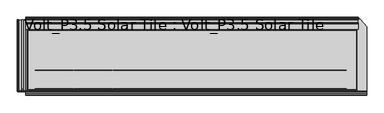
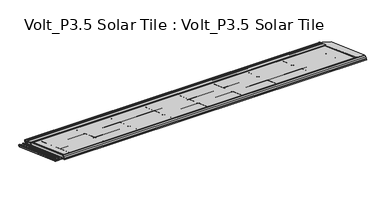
"""IFC4 building model written with IfcOpenShell, lengths in millimetres: proxy geometry, Volt_P3.5 Solar Tile : Volt_P3.5 Solar Tile."""

from ifc_helpers import new_model, si_unit, point, frame, frame_2d, origin, place, context, project, spatial, polyline, circle_curve, ellipse_curve, trimmed, segment, composite_curve, outline, extrude, source, transform, mapped, element, save
from ifc_brep_helpers import plane_surface, cylinder_surface, revolved_surface, advanced_brep


def volt_p3_5_solar_tile_volt_p3_5_solar_tile_fd20a2fa(model_context):
    return source(origin(), model_context, "Body", "SolidModel", [
        extrude(outline(composite_curve([segment(polyline([(515.4287525, -106.4005663), (519.4712942, -106.3723435), (556.2132766, -119.7453315), (553.7849336, -126.4171491), (572.3908466, -133.1891476), (574.4771691, -127.4570235)]), True, "CONTINUOUS"), segment(trimmed(circle_curve(frame_2d((576.2625851, -128.1068618)), 1.9), [point((574.4771691, -127.4570235))], [point((576.9124234, -126.3214458))], False, "CARTESIAN"), True, "CONTINUOUS"), segment(polyline([(576.9124234, -126.3214458), (583.8191641, -128.8352939)]), True, "CONTINUOUS"), segment(trimmed(circle_curve(frame_2d((583.562649, -129.5400634)), 0.75), [point((583.8191641, -128.8352939))], [point((584.2674185, -129.7965785))], False, "CARTESIAN"), True, "CONTINUOUS"), segment(polyline([(584.2674185, -129.7965785), (576.9994907, -149.765046)]), True, "CONTINUOUS"), segment(trimmed(circle_curve(frame_2d((575.2140747, -149.1152078)), 1.9), [point((576.9994907, -149.765046))], [point((574.5642364, -150.9006237))], False, "CARTESIAN"), True, "CONTINUOUS"), segment(polyline([(574.5642364, -150.9006237), (504.7450747, -125.4885271), (505.6001252, -123.1392953), (507.0096641, -123.6523255)]), True, "CONTINUOUS"), segment(trimmed(circle_curve(frame_2d((507.8647144, -121.3030939)), 2.5), [point((507.0096641, -123.6523255))], [point((510.213946, -122.1581443))], True, "CARTESIAN"), True, "CONTINUOUS"), segment(polyline([(510.213946, -122.1581443), (512.1945329, -116.7165265)]), True, "CONTINUOUS"), segment(trimmed(circle_curve(frame_2d((514.3558259, -117.5031729)), 2.3), [point((512.1945329, -116.7165265))], [point((515.1424722, -115.3418799))], False, "CARTESIAN"), True, "CONTINUOUS"), segment(polyline([(515.1424722, -115.3418799), (516.7399497, -115.9233141), (520.0474682, -117.2596383)]), True, "CONTINUOUS"), segment(trimmed(circle_curve(frame_2d((520.4220748, -116.3324544)), 1.0), [point((520.0474682, -117.2596383))], [point((521.3617674, -116.6744746))], True, "CARTESIAN"), True, "CONTINUOUS"), segment(polyline([(521.3617674, -116.6744746), (523.969707, -109.5092195), (515.4287525, -106.4005663)]), True, "CONTINUOUS")], self_intersect=False), holes=[composite_curve([segment(polyline([(525.3481738, -110.1076194), (521.8922522, -119.6026861), (520.4918217, -119.0646306), (517.0982319, -128.388442), (567.4657564, -146.7207216), (570.9938636, -137.0273269)]), True, "CONTINUOUS"), segment(trimmed(circle_curve(frame_2d((570.6179905, -136.8905202)), 0.3999957), [point((570.9938636, -137.0273269))], [point((570.3415961, -136.6013789))], True, "CARTESIAN"), True, "CONTINUOUS"), segment(trimmed(circle_curve(frame_2d((568.6141123, -134.7942265)), 2.5), [point((570.3415961, -136.6013789))], [point((567.1296696, -136.8058005))], False, "CARTESIAN"), True, "CONTINUOUS"), segment(polyline([(567.1296696, -136.8058005), (567.7896609, -135.8632353)]), True, "CONTINUOUS"), segment(trimmed(circle_curve(frame_2d((568.6141123, -134.7942265)), 1.35), [point((567.7896609, -135.8632353))], [point((567.2652569, -134.7386473))], True, "CARTESIAN"), True, "CONTINUOUS"), segment(polyline([(567.2652569, -134.7386473), (566.1189759, -134.6383607)]), True, "CONTINUOUS"), segment(trimmed(circle_curve(frame_2d((568.6141123, -134.7942265)), 2.5), [point((566.1189759, -134.6383607))], [point((567.0521042, -132.8422709))], False, "CARTESIAN"), True, "CONTINUOUS"), segment(polyline([(567.0521042, -132.8422709), (553.6477805, -127.9634961)]), True, "CONTINUOUS"), segment(trimmed(circle_curve(frame_2d((554.2976187, -126.1780801)), 1.9), [point((553.6477805, -127.9634961))], [point((552.4109903, -125.9530624))], False, "CARTESIAN"), True, "CONTINUOUS"), segment(polyline([(552.4109903, -125.9530624), (552.7605903, -124.8458027)]), True, "CONTINUOUS"), segment(trimmed(circle_curve(frame_2d((552.3847133, -124.7089946)), 0.4), [point((552.7605903, -124.8458027))], [point((552.2586755, -124.3293705))], True, "CARTESIAN"), True, "CONTINUOUS"), segment(trimmed(circle_curve(frame_2d((551.4709394, -121.9567197)), 2.5), [point((552.2586755, -124.3293705))], [point((549.9864969, -123.9682938))], False, "CARTESIAN"), True, "CONTINUOUS"), segment(polyline([(549.9864969, -123.9682938), (550.6464882, -123.0257286)]), True, "CONTINUOUS"), segment(trimmed(circle_curve(frame_2d((551.4709394, -121.9567197)), 1.35), [point((550.6464882, -123.0257286))], [point((550.122084, -121.9011402))], True, "CARTESIAN"), True, "CONTINUOUS"), segment(polyline([(550.122084, -121.9011402), (548.975803, -121.8008536)]), True, "CONTINUOUS"), segment(trimmed(circle_curve(frame_2d((551.4709394, -121.9567197)), 2.5), [point((548.975803, -121.8008536))], [point((550.1597304, -119.8281683))], False, "CARTESIAN"), True, "CONTINUOUS"), segment(trimmed(circle_curve(frame_2d((549.949937, -119.4876001)), 0.4), [point((550.1597304, -119.8281683))], [point((550.086745, -119.111723))], True, "CARTESIAN"), True, "CONTINUOUS"), segment(polyline([(550.086745, -119.111723), (525.3481738, -110.1076194)]), True, "CONTINUOUS")], self_intersect=False), polyline([(519.1088944, -118.4784855), (513.8466158, -116.5631727), (510.4264143, -125.9600989), (515.688693, -127.8754117), (519.1088944, -118.4784855)]), composite_curve([segment(polyline([(574.118916, -132.8270225), (568.8752953, -147.2337519), (575.4531437, -149.6278929), (582.6013644, -129.9883177), (578.7679823, -128.5930807)]), True, "CONTINUOUS"), segment(trimmed(circle_curve(frame_2d((578.6311743, -128.9689578)), 0.4), [point((578.7679823, -128.5930807))], [point((578.382121, -129.2819633))], True, "CARTESIAN"), True, "CONTINUOUS"), segment(trimmed(circle_curve(frame_2d((576.8255379, -131.2382488)), 2.5000007), [point((578.382121, -129.2819633))], [point((579.2696972, -131.7636906))], False, "CARTESIAN"), True, "CONTINUOUS"), segment(polyline([(579.2696972, -131.7636906), (578.146914, -131.5147755)]), True, "CONTINUOUS"), segment(trimmed(circle_curve(frame_2d((576.8255379, -131.2382488)), 1.3500007), [point((578.146914, -131.5147755))], [point((577.2161781, -132.5304957))], True, "CARTESIAN"), True, "CONTINUOUS"), segment(polyline([(577.2161781, -132.5304957), (577.5620029, -133.6273119)]), True, "CONTINUOUS"), segment(trimmed(circle_curve(frame_2d((576.8255379, -131.2382488)), 2.5000007), [point((577.5620029, -133.6273119))], [point((574.816275, -132.7258194))], False, "CARTESIAN"), True, "CONTINUOUS"), segment(trimmed(circle_curve(frame_2d((574.494793, -132.9638306)), 0.4), [point((574.816275, -132.7258194))], [point((574.118916, -132.8270225))], True, "CARTESIAN"), True, "CONTINUOUS")], self_intersect=False)]), frame((-910.1, 0.0, 0.0), z_axis=(1.0, 0.0, 0.0), x_axis=(0.0, 1.0, 0.0)), (0.0, 0.0, 1.0), 1818.7),
        advanced_brep(
        [(952.9001354, 180.0543196, 17.1653322), (952.9001354, 177.9674488, 16.336152), (952.9001354, 169.9682153, 11.9021044), (952.9001354, 162.920374, 5.9252649), (952.9001354, 162.0108089, 5.6120765), (952.9001354, 159.9681802, 3e-07), (952.9001354, 173.5973952, -4.9606283), (952.9001354, 181.4638585, 16.652302), (952.9001354, 173.0381205, 12.1208089), (952.9001354, 179.4112645, 15.3985528), (952.9001354, 172.7008865, -3.0380591), (952.9001354, 162.1366046, 0.807025), (952.9001354, 163.3805058, 4.2246153), (952.9001354, 167.949555, 8.521188), (-910.1, 159.9681802, 3e-07), (-910.1, 162.0108089, 5.6120765), (-910.1, 162.920374, 5.9252649), (-910.1, 169.9682153, 11.9021044), (-910.1, 177.9674488, 16.336152), (-910.1, 180.0543196, 17.1653322), (-910.1, 524.4516651, -108.1850503), (-910.1, 519.355565, -122.1864704), (-910.1, 186.8702679, -1.1717189), (-910.1, 185.54344, -2.2850597), (-910.1, 174.4451893, 1.7543732), (-910.1, 179.4112645, 15.3985528), (-910.1, 173.0381205, 12.1208089), (-910.1, 167.949555, 8.521188), (-910.1, 163.3805058, 4.2246153), (-910.1, 162.1366046, 0.807025), (-910.1, 172.7008865, -3.0380591), (-910.1, 181.0322252, -6.0704184), (-910.1, 179.7053973, -7.1837592), (907.0918853, 178.9401658, 5.3328067), (907.0918853, 175.5199644, -4.0641195), (-900.0, 175.5199644, -4.0641195), (-900.0, 178.9401658, 5.3328067), (-901.5, 175.5199644, -4.0641195), (-907.1, 175.5199644, -4.0641195), (-907.1, 178.9401658, 5.3328067), (-901.5, 178.9401658, 5.3328067), (-907.1, 519.1088945, -118.4784852), (-901.5, 513.8466159, -116.5631724), (901.4918853, 184.2024445, 3.4174939), (-900.0, 184.2024445, 3.4174939), (901.4918853, 180.7822431, -5.9794324), (-900.0, 180.7822431, -5.9794324), (-901.5, 510.4264144, -125.9600986), (-907.1, 515.6886931, -127.8754114), (899.9918853, 181.6787518, -7.9020015), (-900.0, 181.6787518, -7.9020015), (-900.0, 186.1560857, 4.3993723), (899.9918853, 186.1560857, 4.3993723), (-900.0, 512.9811792, -114.5552335), (-904.0, 516.7399497, -115.9233141), (-904.0, 178.0747292, 7.3407456), (-900.0, 178.0747292, 7.3407456), (-900.0, 182.3973152, 5.7674529), (903.9918853, 182.3973152, 5.7674529), (908.5918853, 178.0197886, 7.1897975), (-900.0, 178.0197886, 7.1897975), (-908.6, 180.9819004, 15.3281328), (908.5918853, 180.9819004, 15.3281328), (908.5918853, 181.4638585, 16.652302), (908.5918853, 173.5973952, -4.9606283), (-908.6, 178.0197886, 7.1897975), (-899.5109061, 189.5228549, 12.2194796), (899.5027913, 189.5228549, 12.2194796), (-908.6, 523.969707, -109.5092195), (-899.5109061, 515.4287525, -106.4005663), (-903.3, 186.4442294, 14.8395953), (903.2918853, 186.4442294, 14.8395953), (-903.3, 519.4712942, -106.3723435), (-908.6, 524.4516651, -108.1850503), (-952.6, 179.7053973, -7.1837592), (-952.6, 566.9527263, -148.1302603), (-910.1, 566.9527263, -148.1302603), (-910.1, 516.5852018, -129.7979806), (-908.6, 516.5852018, -129.7979806), (-900.0, 508.5038453, -126.8566073), (-908.6, 179.4112645, 15.3985528), (-908.6, 172.7008865, -3.0380591), (-907.1, 172.7008865, -3.0380591), (-901.5, 172.7008865, -3.0380591), (-900.0, 172.7008865, -3.0380591), (-908.6, 175.8547282, 1.241343), (-908.6, 174.1104255, -3.5510893), (-952.6, 571.1937761, -136.4780718), (-946.7, 571.1937761, -136.4780718), (-946.7, 570.4071297, -138.6393648), (-944.7, 569.7230895, -140.51875), (-930.7, 569.7230895, -140.51875), (-930.7, 571.1937761, -136.4780718), (-923.7, 571.1937761, -136.4780718), (-923.7, 569.7230895, -140.51875), (-910.1, 569.7230895, -140.51875), (-910.1, 569.2100592, -141.928289), (-925.2, 569.2100592, -141.928289), (-925.2, 570.6807459, -137.8876107), (-929.2, 570.6807459, -137.8876107), (-929.2, 569.2100592, -141.928289), (-948.2, 569.2100592, -141.928289), (-948.2, 570.6807459, -137.8876107), (-953.1, 570.6807459, -137.8876107), (-953.1, 567.4657565, -146.7207213), (-910.1, 567.4657565, -146.7207213), (-954.6, 567.6367666, -146.250875), (-954.6, 570.5097358, -138.357457), (-954.6, 188.9047374, 0.5354037), (-952.6, 190.6738412, 2.0198581), (-954.6, 181.4745011, -5.6993048), (-908.6, 521.0075952, -117.6475548), (-923.7, 186.8702679, -1.1717189), (-923.7, 190.6738412, 2.0198581), (-930.7, 190.6738412, 2.0198581), (-930.7, 186.8702679, -1.1717189), (-944.7, 186.8702679, -1.1717189), (-946.7, 188.6393718, 0.3127355), (-946.7, 190.6738412, 2.0198581), (-948.2, 185.54344, -2.2850597), (-948.2, 189.3470133, 0.9065173), (-929.2, 185.54344, -2.2850597), (-929.2, 189.3470133, 0.9065173), (-925.2, 189.3470133, 0.9065173), (-925.2, 185.54344, -2.2850597), (-910.1, 518.8425348, -123.5960093), (-908.6, 518.8425348, -123.5960093), (-908.6, 517.098232, -128.3884416), (-953.1, 181.0322252, -6.0704184), (-910.1, 517.098232, -128.3884416), (-953.1, 189.3470133, 0.9065173)],
        [
            (0, 1),
            (1, 2),
            (2, 3),
            (3, 4),
            (4, 5),
            (5, 6),
            (6, 7),
            (7, 0),
            (8, 9),
            (9, 10),
            (10, 11),
            (11, 12),
            (12, 13),
            (13, 8),
            (14, 15),
            (15, 16),
            (16, 17),
            (17, 18),
            (18, 19),
            (19, 20),
            (20, 21),
            (21, 22),
            (22, 23),
            (23, 24),
            (24, 25),
            (25, 26),
            (26, 27),
            (27, 28),
            (28, 29),
            (29, 30),
            (30, 31),
            (31, 32),
            (32, 14),
            (33, 34),
            (34, 35),
            (35, 36),
            (36, 33),
            (37, 38),
            (38, 39),
            (39, 40),
            (40, 37),
            (39, 41),
            (41, 42),
            (42, 40),
            (43, 33),
            (36, 44),
            (44, 43),
            (45, 43),
            (44, 46),
            (46, 45),
            (37, 47),
            (47, 48),
            (48, 38),
            (34, 45),
            (46, 35),
            (49, 50),
            (50, 51),
            (51, 52),
            (52, 49),
            (51, 53),
            (53, 54),
            (54, 55),
            (55, 56),
            (56, 57),
            (57, 58),
            (58, 52),
            (59, 58),
            (57, 60),
            (60, 59),
            (61, 62),
            (62, 63),
            (63, 7),
            (6, 64),
            (64, 59),
            (60, 56),
            (55, 65),
            (65, 61),
            (66, 67),
            (67, 62),
            (61, 68),
            (68, 69),
            (69, 66),
            (66, 70),
            (70, 71),
            (71, 67),
            (63, 71),
            (70, 72),
            (72, 73),
            (73, 20),
            (19, 0),
            (18, 1),
            (17, 2),
            (16, 3),
            (15, 4),
            (14, 5),
            (32, 74),
            (74, 75),
            (75, 76),
            (76, 77),
            (77, 78),
            (78, 79),
            (79, 50),
            (49, 64),
            (8, 26),
            (25, 80),
            (80, 9),
            (24, 30),
            (30, 81),
            (81, 82),
            (82, 83),
            (83, 84),
            (84, 10),
            (29, 11),
            (28, 12),
            (27, 13),
            (24, 85),
            (85, 86),
            (86, 30),
            (87, 88),
            (88, 89),
            (89, 90, circle_curve(frame((-944.7, 570.4071297, -138.6393648), z_axis=(0.0, -0.9396926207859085, 0.34202014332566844), x_axis=(-1.0, 0.0, 0.0)), 2.0)),
            (90, 91),
            (91, 92),
            (92, 93),
            (93, 94),
            (94, 95),
            (95, 96),
            (96, 97),
            (97, 98),
            (98, 99),
            (99, 100),
            (100, 101),
            (101, 102),
            (102, 103),
            (103, 104),
            (104, 105),
            (105, 76),
            (75, 106, circle_curve(frame((-952.6, 567.6367666, -146.250875), z_axis=(0.0, 0.9396926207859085, -0.34202014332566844), x_axis=(-1.0, 0.0, 0.0)), 2.0)),
            (106, 107),
            (107, 87, circle_curve(frame((-952.6, 570.5097358, -138.357457), z_axis=(0.0, 0.9396926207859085, -0.34202014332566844), x_axis=(0.0, 0.34202014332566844, 0.9396926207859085)), 2.0)),
            (107, 108),
            (108, 109, ellipse_curve(frame((-952.6, 188.9047374, 0.5354037), z_axis=(0.0, 0.6427876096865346, -0.7660444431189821), x_axis=(0.0, -0.7660444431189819, -0.6427876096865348)), 2.3094011, 2.0)),
            (109, 87),
            (106, 110),
            (110, 108),
            (74, 110, ellipse_curve(frame((-952.6, 181.4745011, -5.6993048), z_axis=(0.0, 0.6427876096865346, -0.7660444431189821), x_axis=(0.0, -0.7660444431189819, -0.6427876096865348)), 2.3094011, 2.0)),
            (79, 53),
            (54, 111),
            (111, 65),
            (111, 68),
            (69, 72),
            (94, 112),
            (112, 22),
            (21, 95),
            (93, 113),
            (113, 112),
            (92, 114),
            (114, 113),
            (91, 115),
            (115, 114),
            (90, 116),
            (116, 115),
            (89, 117),
            (117, 116, ellipse_curve(frame((-944.7, 188.6393718, 0.3127355), z_axis=(0.0, -0.6427876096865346, 0.7660444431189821), x_axis=(0.0, 0.7660444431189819, 0.6427876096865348)), 2.3094011, 2.0)),
            (88, 118),
            (118, 117),
            (109, 118),
            (101, 119),
            (119, 120),
            (120, 102),
            (100, 121),
            (121, 119),
            (99, 122),
            (122, 121),
            (98, 123),
            (123, 122),
            (97, 124),
            (124, 123),
            (96, 125),
            (125, 126),
            (126, 85),
            (23, 124),
            (126, 127),
            (127, 86),
            (104, 128),
            (128, 31),
            (127, 129),
            (129, 105),
            (103, 130),
            (130, 128),
            (120, 130),
            (42, 47),
            (48, 41),
            (77, 129),
            (127, 78),
            (111, 126),
            (125, 21),
            (73, 68),
        ],
        [
            plane_surface(frame((952.9001354, 175.5199644, -4.0641195), z_axis=(1.0, 0.0, 0.0), x_axis=(0.0, 0.34202014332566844, 0.9396926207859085))),
            plane_surface(frame((-910.1, 175.5199644, -4.0641195), z_axis=(-1.0, 0.0, 0.0), x_axis=(0.0, -0.34202014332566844, -0.9396926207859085))),
            plane_surface(frame((952.9001354, 175.5199644, -4.0641195), z_axis=(0.0, 0.9396926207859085, -0.34202014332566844), x_axis=(-1.0, 0.0, 0.0))),
            plane_surface(frame((952.9001354, 178.9401658, 5.3328067), z_axis=(0.0, -0.34202014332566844, -0.9396926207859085), x_axis=(-1.0, 0.0, 0.0))),
            plane_surface(frame((952.9001354, 184.2024445, 3.4174939), z_axis=(0.0, -0.9396926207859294, 0.3420201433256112), x_axis=(-1.0, 0.0, 0.0))),
            plane_surface(frame((952.9001354, 180.7822431, -5.9794324), z_axis=(0.0, 0.34202014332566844, 0.9396926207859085), x_axis=(-1.0, 0.0, 0.0))),
            plane_surface(frame((952.9001354, 181.6787518, -7.9020015), z_axis=(0.0, 0.9396926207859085, -0.34202014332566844), x_axis=(-1.0, 0.0, 0.0))),
            plane_surface(frame((952.9001354, 186.1560857, 4.3993723), z_axis=(0.0, 0.34202014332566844, 0.9396926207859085), x_axis=(-1.0, 0.0, 0.0))),
            plane_surface(frame((952.9001354, 182.3973152, 5.7674529), z_axis=(0.0, 0.3090169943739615, 0.9510565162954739), x_axis=(-1.0, 0.0, 0.0))),
            plane_surface(frame((952.9001354, 178.0197886, 7.1897975), z_axis=(0.0, 0.9396926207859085, -0.34202014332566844), x_axis=(-1.0, 0.0, 0.0))),
            plane_surface(frame((952.9001354, 180.9819004, 15.3281328), z_axis=(0.0, -0.34202014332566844, -0.9396926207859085), x_axis=(-1.0, 0.0, 0.0))),
            plane_surface(frame((952.9001354, 189.5228549, 12.2194796), z_axis=(0.0, 0.6481199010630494, 0.7615383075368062), x_axis=(-1.0, 0.0, 0.0))),
            plane_surface(frame((952.9001354, 186.4442294, 14.8395953), z_axis=(0.0, 0.3420201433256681, 0.9396926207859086), x_axis=(-1.0, 0.0, 0.0))),
            plane_surface(frame((952.9001354, 180.0543196, 17.1653322), z_axis=(0.0, -0.3692521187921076, 0.9293292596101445), x_axis=(-1.0, 0.0, 0.0))),
            plane_surface(frame((952.9001354, 177.9674488, 16.336152), z_axis=(0.0, -0.4848096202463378, 0.8746197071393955), x_axis=(-1.0, 0.0, 0.0))),
            plane_surface(frame((952.9001354, 169.9682153, 11.9021044), z_axis=(0.0, -0.6467794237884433, 0.762677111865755), x_axis=(-1.0, 0.0, 0.0))),
            plane_surface(frame((952.9001354, 162.920374, 5.9252649), z_axis=(0.0, -0.3255681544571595, 0.9455185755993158), x_axis=(-1.0, 0.0, 0.0))),
            plane_surface(frame((952.9001354, 162.0108089, 5.6120765), z_axis=(0.0, -0.9396926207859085, 0.34202014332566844), x_axis=(-1.0, 0.0, 0.0))),
            plane_surface(frame((952.9001354, 159.9681802, 3e-07), z_axis=(0.0, -0.34202014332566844, -0.9396926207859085), x_axis=(-1.0, 0.0, 0.0))),
            plane_surface(frame((952.9001354, 173.0381205, 12.1208089), z_axis=(0.0, 0.4573620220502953, -0.8892805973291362), x_axis=(-1.0, 0.0, 0.0))),
            plane_surface(frame((952.9001354, 179.4112645, 15.3985528), z_axis=(0.0, -0.9396926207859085, 0.34202014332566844), x_axis=(-1.0, 0.0, 0.0))),
            plane_surface(frame((952.9001354, 172.7008865, -3.0380591), z_axis=(0.0, 0.34202014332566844, 0.9396926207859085), x_axis=(-1.0, 0.0, 0.0))),
            plane_surface(frame((952.9001354, 162.1366046, 0.807025), z_axis=(0.0, 0.9396926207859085, -0.34202014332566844), x_axis=(-1.0, 0.0, 0.0))),
            plane_surface(frame((952.9001354, 163.3805058, 4.2246153), z_axis=(0.0, 0.6850510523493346, -0.7284950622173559), x_axis=(-1.0, 0.0, 0.0))),
            plane_surface(frame((952.9001354, 167.949555, 8.521188), z_axis=(0.0, 0.5775066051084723, -0.8163860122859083), x_axis=(-1.0, 0.0, 0.0))),
            plane_surface(frame((899.5027913, 193.916151, 24.2899616), z_axis=(0.7071067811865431, 0.6644630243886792, -0.24184476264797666), x_axis=(0.0, -0.34202014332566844, -0.9396926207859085))),
            plane_surface(frame((-911.910762, 182.2640979, 28.5309621), z_axis=(-0.7071067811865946, 0.6644630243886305, -0.24184476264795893), x_axis=(0.0, -0.34202014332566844, -0.9396926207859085))),
            plane_surface(frame((-952.6, 571.1937761, -136.4780718), z_axis=(0.0, 0.9396926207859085, -0.34202014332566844), x_axis=(1.0, 0.0, 0.0))),
            cylinder_surface(frame((-952.6, 570.5097358, -138.357457), z_axis=(0.0, -0.9396926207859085, 0.34202014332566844), x_axis=(0.0, 0.34202014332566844, 0.9396926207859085)), 2.0),
            plane_surface(frame((-954.6, 175.7448658, 5.3252052), z_axis=(-1.0, 0.0, 0.0), x_axis=(0.0, 0.9396926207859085, -0.34202014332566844))),
            cylinder_surface(frame((-952.6, 567.6367666, -146.250875), z_axis=(0.0, -0.9396926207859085, 0.34202014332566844), x_axis=(-1.0, 0.0, 0.0)), 2.0),
            plane_surface(frame((-900.0, 172.1878563, -4.4475981), z_axis=(1.0, 0.0, 0.0), x_axis=(0.0, 0.9396926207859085, -0.34202014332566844))),
            plane_surface(frame((-904.0, 176.6651902, 7.8537758), z_axis=(-0.034899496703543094, 0.34181179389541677, 0.9391201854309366), x_axis=(0.0, 0.9396926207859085, -0.34202014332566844))),
            plane_surface(frame((-908.6, 176.6102496, 7.7028277), z_axis=(1.0, 0.0, 0.0), x_axis=(0.0, 0.9396926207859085, -0.34202014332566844))),
            plane_surface(frame((-899.5109061, 179.5723614, 15.8411631), z_axis=(0.34857204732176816, 0.32056932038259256, 0.8807569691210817), x_axis=(0.0, 0.9396926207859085, -0.34202014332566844))),
            plane_surface(frame((-910.1, 174.9582195, 3.1639122), z_axis=(0.0, 0.34202014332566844, 0.9396926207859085), x_axis=(0.0, 0.9396926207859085, -0.34202014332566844))),
            plane_surface(frame((-923.7, 174.9582195, 3.1639122), z_axis=(1.0, 0.0, 0.0), x_axis=(0.0, 0.9396926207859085, -0.34202014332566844))),
            plane_surface(frame((-923.7, 176.4289061, 7.2045904), z_axis=(0.0, 0.34202014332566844, 0.9396926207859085), x_axis=(0.0, 0.9396926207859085, -0.34202014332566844))),
            plane_surface(frame((-930.7, 176.4289061, 7.2045904), z_axis=(-1.0, 0.0, 0.0), x_axis=(0.0, 0.9396926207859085, -0.34202014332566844))),
            plane_surface(frame((-930.7, 174.9582195, 3.1639122), z_axis=(0.0, 0.34202014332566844, 0.9396926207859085), x_axis=(0.0, 0.9396926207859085, -0.34202014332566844))),
            revolved_surface(polyline([(-946.7, 570.4071297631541, -138.63936482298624), (-946.7, 187.55430818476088, 0.7076663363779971)]), (-944.7, 570.4071297, -138.6393648), (0.0, 0.9396926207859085, -0.34202014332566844)),
            plane_surface(frame((-946.7, 175.6422598, 5.0432974), z_axis=(1.0, 0.0, 0.0), x_axis=(0.0, 0.9396926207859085, -0.34202014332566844))),
            plane_surface(frame((-946.7, 176.4289061, 7.2045904), z_axis=(0.0, 0.34202014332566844, 0.9396926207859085), x_axis=(0.0, 0.9396926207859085, -0.34202014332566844))),
            plane_surface(frame((-948.2, 175.9158759, 5.7950515), z_axis=(-1.0, 0.0, 0.0), x_axis=(0.0, 0.9396926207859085, -0.34202014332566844))),
            plane_surface(frame((-948.2, 174.4451893, 1.7543732), z_axis=(0.0, -0.34202014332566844, -0.9396926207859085), x_axis=(0.0, 0.9396926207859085, -0.34202014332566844))),
            plane_surface(frame((-929.2, 174.4451893, 1.7543732), z_axis=(1.0, 0.0, 0.0), x_axis=(0.0, 0.9396926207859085, -0.34202014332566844))),
            plane_surface(frame((-929.2, 175.9158759, 5.7950515), z_axis=(0.0, -0.34202014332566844, -0.9396926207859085), x_axis=(0.0, 0.9396926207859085, -0.34202014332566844))),
            plane_surface(frame((-925.2, 175.9158759, 5.7950515), z_axis=(-1.0, 0.0, 0.0), x_axis=(0.0, 0.9396926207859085, -0.34202014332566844))),
            plane_surface(frame((-925.2, 174.4451893, 1.7543732), z_axis=(0.0, -0.34202014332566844, -0.9396926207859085), x_axis=(0.0, 0.9396926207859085, -0.34202014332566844))),
            plane_surface(frame((-908.6, 174.4451893, 1.7543732), z_axis=(-1.0, 0.0, 0.0), x_axis=(0.0, 0.9396926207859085, -0.34202014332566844))),
            plane_surface(frame((-908.6, 172.7008865, -3.0380591), z_axis=(0.0, 0.34202014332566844, 0.9396926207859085), x_axis=(0.0, 0.9396926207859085, -0.34202014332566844))),
            plane_surface(frame((-953.1, 172.7008865, -3.0380591), z_axis=(1.0, 0.0, 0.0), x_axis=(0.0, 0.9396926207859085, -0.34202014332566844))),
            plane_surface(frame((-953.1, 175.9158759, 5.7950515), z_axis=(0.0, -0.34202014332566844, -0.9396926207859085), x_axis=(0.0, 0.9396926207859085, -0.34202014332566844))),
            plane_surface(frame((-901.5, 176.121088, 6.3588671), z_axis=(-1.0, 0.0, 0.0), x_axis=(0.0, 0.9396926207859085, -0.34202014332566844))),
            plane_surface(frame((-907.1, 172.7008865, -3.0380591), z_axis=(1.0, 0.0, 0.0), x_axis=(0.0, 0.9396926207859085, -0.34202014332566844))),
            plane_surface(frame((-910.1, 526.9654696, -101.2784294), z_axis=(0.0, 0.9396926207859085, -0.34202014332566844), x_axis=(0.0, -0.34202014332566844, -0.9396926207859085))),
            plane_surface(frame((-908.6, 526.9654696, -101.2784294), z_axis=(0.7071067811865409, 0.6644630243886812, -0.24184476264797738), x_axis=(0.0, -0.34202014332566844, -0.9396926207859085))),
            plane_surface(frame((-910.1, 577.332994, -119.610709), z_axis=(1.0, 0.0, 0.0), x_axis=(0.0, -0.34202014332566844, -0.9396926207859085))),
            plane_surface(frame((-910.0999984, 164.8787285, -19.6248115), z_axis=(0.0, -0.6427876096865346, 0.7660444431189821), x_axis=(-1.0, 0.0, 0.0))),
        ],
        [
            (0, [[1, 2, 3, 4, 5, 6, 7, 8], [9, 10, 11, 12, 13, 14]]),
            (1, [[15, 16, 17, 18, 19, 20, 21, 22, 23, 24, 25, 26, 27, 28, 29, 30, 31, 32, 33]]),
            (2, [[34, 35, 36, 37]]),
            (2, [[38, 39, 40, 41]]),
            (3, [[-40, 42, 43, 44]]),
            (3, [[45, -37, 46, 47]]),
            (4, [[48, -47, 49, 50]]),
            (5, [[-38, 51, 52, 53]]),
            (5, [[54, -50, 55, -35]]),
            (6, [[56, 57, 58, 59]]),
            (7, [[-58, 60, 61, 62, 63, 64, 65, 66]]),
            (8, [[67, -65, 68, 69]]),
            (9, [[70, 71, 72, -7, 73, 74, -69, 75, -63, 76, 77]]),
            (10, [[78, 79, -70, 80, 81, 82]]),
            (11, [[-78, 83, 84, 85]]),
            (12, [[-8, -72, 86, -84, 87, 88, 89, -20, 90]]),
            (13, [[-1, -90, -19, 91]]),
            (14, [[-2, -91, -18, 92]]),
            (15, [[-3, -92, -17, 93]]),
            (16, [[-4, -93, -16, 94]]),
            (17, [[-5, -94, -15, 95]]),
            (18, [[-95, -33, 96, 97, 98, 99, 100, 101, 102, -56, 103, -73, -6]]),
            (19, [[-9, 104, -26, 105, 106]]),
            (20, [[-10, -106, -105, -25, 107, 108, 109, 110, 111, 112]]),
            (21, [[-11, -112, -111, -110, -109, -108, -30, 113]]),
            (22, [[-12, -113, -29, 114]]),
            (23, [[-13, -114, -28, 115]]),
            (24, [[-14, -115, -27, -104]]),
            (25, [[-71, -79, -85, -86]]),
            (25, [[-74, -103, -59, -66, -67], [-34, -45, -48, -54]]),
            (26, [[-107, 116, 117, 118]]),
            (27, [[119, 120, 121, 122, 123, 124, 125, 126, 127, 128, 129, 130, 131, 132, 133, 134, 135, 136, 137, -98, 138, 139, 140]]),
            (28, [[-140, 141, 142, 143]]),
            (29, [[-139, 144, 145, -141]]),
            (30, [[-138, -97, 146, -144]]),
            (31, [[-36, -55, -49, -46]]),
            (31, [[-64, -75, -68]]),
            (31, [[147, -60, -57, -102]]),
            (32, [[-62, 148, 149, -76]]),
            (33, [[150, -80, -77, -149]]),
            (34, [[151, -87, -83, -82]]),
            (35, [[-126, 152, 153, -22, 154]]),
            (36, [[-125, 155, 156, -152]]),
            (37, [[-124, 157, 158, -155]]),
            (38, [[-123, 159, 160, -157]]),
            (39, [[-122, 161, 162, -159]]),
            (40, [[-121, 163, 164, -161]]),
            (41, [[-120, 165, 166, -163]]),
            (42, [[-119, -143, 167, -165]]),
            (43, [[-133, 168, 169, 170]]),
            (44, [[-132, 171, 172, -168]]),
            (45, [[-131, 173, 174, -171]]),
            (46, [[-130, 175, 176, -173]]),
            (47, [[-129, 177, 178, -175]]),
            (48, [[-128, 179, 180, 181, -116, -24, 182, -177]]),
            (49, [[183, 184, -117, -181]]),
            (50, [[-136, 185, 186, -31, -118, -184, 187, 188]]),
            (51, [[-135, 189, 190, -185]]),
            (52, [[-134, -170, 191, -189]]),
            (53, [[-44, 192, -51, -41]]),
            (54, [[193, -42, -39, -53]]),
            (55, [[194, -187, 195, -100]]),
            (55, [[196, -180, 197, -21, -89, 198, -150]]),
            (56, [[-196, -148, -61, -147, -101, -195, -183], [-43, -193, -52, -192]]),
            (56, [[-198, -88, -151, -81]]),
            (57, [[-197, -179, -127, -154]]),
            (57, [[-194, -99, -137, -188]]),
            (58, [[-23, -153, -156, -158, -160, -162, -164, -166, -167, -142, -145, -146, -96, -32, -186, -190, -191, -169, -172, -174, -176, -178, -182]]),
        ],
    ),
        advanced_brep(
        [(908.5996172, 180.9826457, 15.3301806), (908.5996172, 178.0210556, 7.1932786), (908.5918853, 177.53067, 5.8459553), (910.1001595, 177.53067, 5.8459553), (910.1001595, 178.8983081, 9.6035101), (922.4951984, 178.8983081, 9.6035101), (922.4951984, 177.3254243, 5.2820474), (929.4998568, 177.3254243, 5.2820474), (929.4998568, 178.8988007, 9.6048636), (943.700575, 178.8988007, 9.6048636), (943.700575, 178.3597831, 8.1239249), (944.2829483, 178.1804376, 7.6311771), (948.8702123, 178.1804376, 7.6311771), (949.3742603, 178.3858894, 8.1956514), (951.9342355, 178.3858894, 8.1956514), (952.9000081, 178.7162031, 9.1031808), (952.9000081, 181.4638585, 16.652302), (908.5918853, 181.4638585, 16.652302), (910.0996172, 180.9508283, 15.2427631), (951.4000081, 180.9508283, 15.2427631), (951.4000081, 178.8986799, 9.6045316), (945.1956922, 178.8986799, 9.6045316), (945.1956922, 179.4118309, 11.0144025), (927.9998568, 179.4118309, 11.0144025), (927.9998568, 177.8384545, 6.6915863), (923.9951984, 177.8384545, 6.6915863), (923.9951984, 179.4113383, 11.013049), (910.0996172, 179.4113383, 11.013049), (952.9000081, 534.3293194, -111.7802224), (917.4999012, 573.9732639, -126.2094382), (908.6, 573.9732639, -126.2094382), (908.6, 524.4576988, -108.1872464), (903.2991286, 519.4765091, -106.3742416), (903.2991286, 186.4374229, 14.8420726), (899.5333348, 515.4566077, -106.4083857), (899.5333348, 189.4948987, 12.2319739), (908.5996172, 523.9761263, -109.5092369), (908.5996172, 570.0400754, -137.0157849), (908.5996172, 520.5241506, -118.9934622), (908.5996172, 521.0145362, -117.6461389), (903.9500674, 516.7009209, -115.9033252), (903.9500674, 182.43847, 5.7582574), (899.9961246, 512.98543, -114.5509971), (899.9961246, 186.1539609, 4.4059293), (899.9961246, 508.5062275, -126.8575047), (899.9961246, 181.6747584, -7.9005783), (908.5996172, 516.5908661, -129.8000725), (908.5996172, 173.5973855, -4.960655), (910.1001595, 570.0400754, -137.0157849), (910.1001595, 571.4077135, -133.2582302), (917.4999012, 571.4077135, -133.2582302), (922.4951984, 565.8135697, -131.2221284), (922.4951984, 564.240686, -135.543591), (929.4998568, 556.3962947, -132.6884661), (929.4998568, 557.9696711, -128.3656499), (943.700575, 542.0665416, -122.5773842), (943.700575, 541.527524, -124.0583228), (944.213445, 540.7709176, -124.3500096), (948.8702123, 535.5587945, -122.4439071), (949.3742603, 535.199772, -121.673981), (951.9342355, 532.3329016, -120.6305255), (952.9000081, 531.581664, -119.3293437), (907.0996025, 519.1145979, -118.4804269), (907.0996025, 515.6943964, -127.8773531), (907.0996025, 175.5127557, -4.0613617), (907.0996025, 178.9329571, 5.3355645), (901.4879949, 510.4212102, -125.9580703), (901.4879949, 180.7859419, -5.9806445), (901.4879949, 513.8414116, -116.5611441), (901.4879949, 184.2061433, 3.4162817), (910.0996172, 573.4602337, -127.6189771), (917.4999012, 573.4602337, -127.6189771), (951.4000081, 535.4961123, -113.801167), (951.4000081, 533.4439638, -119.4393984), (945.1956922, 540.3920659, -121.9683008), (945.1956922, 540.9052169, -120.5584299), (927.9998568, 560.1625244, -127.5675166), (927.9998568, 558.589148, -131.8903328), (923.9951984, 563.0738931, -133.5226465), (923.9951984, 564.6467769, -129.2011838), (917.4999012, 571.9207437, -131.8486912), (910.0996172, 571.9207437, -131.8486912)],
        [
            (0, 1),
            (1, 2),
            (2, 3),
            (3, 4),
            (4, 5),
            (5, 6),
            (6, 7),
            (7, 8),
            (8, 9),
            (9, 10),
            (10, 11, circle_curve(frame((944.1888483, 178.3449741, 8.0832375), z_axis=(0.0, -0.9396926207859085, 0.34202014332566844), x_axis=(1.0, 0.0, 0.0)), 0.4901894)),
            (11, 12),
            (12, 13, circle_curve(frame((948.8849853, 178.3512519, 8.1004857), z_axis=(0.0, -0.9396926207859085, 0.34202014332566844), x_axis=(1.0, 0.0, 0.0)), 0.4996462)),
            (13, 14),
            (14, 15, circle_curve(frame((951.9342355, 178.7162031, 9.1031808), z_axis=(0.0, -0.9396926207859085, 0.34202014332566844), x_axis=(1.0, 0.0, 0.0)), 0.9657725)),
            (15, 16),
            (16, 17),
            (17, 0),
            (18, 19),
            (19, 20),
            (20, 21),
            (21, 22),
            (22, 23),
            (23, 24),
            (24, 25),
            (25, 26),
            (26, 27),
            (27, 18),
            (16, 28),
            (28, 29),
            (29, 30),
            (30, 31),
            (31, 32),
            (32, 33),
            (33, 17),
            (32, 34),
            (34, 35),
            (35, 33),
            (36, 0),
            (0, 35),
            (34, 36),
            (36, 31),
            (30, 37),
            (37, 38),
            (38, 39),
            (39, 1),
            (39, 40),
            (40, 41),
            (41, 1),
            (40, 42),
            (42, 43),
            (43, 41),
            (42, 44),
            (44, 45),
            (45, 43),
            (46, 47),
            (47, 45),
            (44, 46),
            (46, 38),
            (38, 2),
            (2, 47),
            (37, 48),
            (48, 3),
            (48, 49),
            (49, 4),
            (49, 50),
            (50, 51),
            (51, 5),
            (51, 52),
            (52, 6),
            (52, 53),
            (53, 7),
            (53, 54),
            (54, 8),
            (54, 55),
            (55, 9),
            (55, 56),
            (56, 10),
            (56, 57, ellipse_curve(frame((944.1888483, 540.9659065, -123.8999882), z_axis=(-0.7660444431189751, -0.604022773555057, 0.21984631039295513), x_axis=(0.6427876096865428, -0.7198463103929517, 0.26200263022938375)), 0.7625993, 0.4901894)),
            (57, 11),
            (57, 58),
            (58, 12),
            (58, 59, ellipse_curve(frame((948.8849853, 535.7130648, -121.9685771), z_axis=(-0.7660444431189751, -0.604022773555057, 0.21984631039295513), x_axis=(0.6427876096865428, -0.7198463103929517, 0.26200263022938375)), 0.7773115, 0.4996462)),
            (59, 13),
            (59, 60),
            (60, 14),
            (60, 61, ellipse_curve(frame((951.9342355, 532.6632153, -119.7229962), z_axis=(-0.7660444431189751, -0.604022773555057, 0.21984631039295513), x_axis=(0.6427876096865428, -0.7198463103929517, 0.26200263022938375)), 1.5024753, 0.9657725)),
            (61, 15),
            (61, 28),
            (62, 63),
            (63, 64),
            (64, 65),
            (65, 62),
            (63, 66),
            (66, 67),
            (67, 64),
            (66, 68),
            (68, 69),
            (69, 67),
            (68, 62),
            (65, 69),
            (18, 70),
            (70, 71),
            (71, 72),
            (72, 19),
            (72, 73),
            (73, 20),
            (73, 74),
            (74, 21),
            (74, 75),
            (75, 22),
            (75, 76),
            (76, 23),
            (76, 77),
            (77, 24),
            (77, 78),
            (78, 25),
            (78, 79),
            (79, 26),
            (79, 80),
            (80, 81),
            (81, 27),
            (81, 70),
            (29, 71),
            (80, 50),
        ],
        [
            plane_surface(frame((-1284.3523562, 181.4638585, 16.652302), z_axis=(0.0, -0.9396926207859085, 0.34202014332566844), x_axis=(-1.0, 0.0, 0.0))),
            plane_surface(frame((952.9000081, 181.4638585, 16.652302), z_axis=(0.0, 0.34202014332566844, 0.9396926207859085), x_axis=(0.0, 0.9396926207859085, -0.34202014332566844))),
            plane_surface(frame((903.2991286, 181.4638585, 16.652302), z_axis=(-0.3499890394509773, 0.3203886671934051, 0.8802606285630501), x_axis=(0.0, 0.9396926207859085, -0.34202014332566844))),
            plane_surface(frame((899.5333348, 180.9826457, 15.3301806), z_axis=(0.0, -0.34202014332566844, -0.9396926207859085), x_axis=(0.0, 0.9396926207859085, -0.34202014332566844))),
            plane_surface(frame((908.5996172, 180.9826457, 15.3301806), z_axis=(-1.0, 0.0, 0.0), x_axis=(0.0, 0.9396926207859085, -0.34202014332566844))),
            plane_surface(frame((908.5996172, 178.0210556, 7.1932786), z_axis=(0.034899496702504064, 0.34181179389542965, 0.9391201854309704), x_axis=(0.0, 0.9396926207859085, -0.34202014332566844))),
            plane_surface(frame((903.9500674, 178.076588, 7.3458526), z_axis=(0.0, 0.34202014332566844, 0.9396926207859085), x_axis=(0.0, 0.9396926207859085, -0.34202014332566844))),
            plane_surface(frame((899.9961246, 178.0278948, 7.2120693), z_axis=(-1.0, 0.0, 0.0), x_axis=(0.0, 0.9396926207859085, -0.34202014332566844))),
            plane_surface(frame((899.9961246, 173.5973855, -4.960655), z_axis=(0.0, -0.34202014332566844, -0.9396926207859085), x_axis=(0.0, 0.9396926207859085, -0.34202014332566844))),
            plane_surface(frame((908.5996172, 173.5973855, -4.960655), z_axis=(1.0, 0.0, 0.0), x_axis=(0.0, 0.9396926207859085, -0.34202014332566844))),
            plane_surface(frame((908.5996172, 177.53067, 5.8459553), z_axis=(0.0, -0.34202014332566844, -0.9396926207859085), x_axis=(0.0, 0.9396926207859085, -0.34202014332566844))),
            plane_surface(frame((910.1001595, 177.53067, 5.8459553), z_axis=(1.0, 0.0, 0.0), x_axis=(0.0, 0.9396926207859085, -0.34202014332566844))),
            plane_surface(frame((910.1001595, 178.8983081, 9.6035101), z_axis=(0.0, -0.34202014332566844, -0.9396926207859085), x_axis=(0.0, 0.9396926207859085, -0.34202014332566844))),
            plane_surface(frame((922.4951984, 178.8983081, 9.6035101), z_axis=(-1.0, 0.0, 0.0), x_axis=(0.0, 0.9396926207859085, -0.34202014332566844))),
            plane_surface(frame((922.4951984, 177.3254243, 5.2820474), z_axis=(0.0, -0.34202014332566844, -0.9396926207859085), x_axis=(0.0, 0.9396926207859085, -0.34202014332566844))),
            plane_surface(frame((929.4998568, 177.3254243, 5.2820474), z_axis=(1.0, 0.0, 0.0), x_axis=(0.0, 0.9396926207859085, -0.34202014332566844))),
            plane_surface(frame((929.4998568, 178.8988007, 9.6048636), z_axis=(0.0, -0.34202014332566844, -0.9396926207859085), x_axis=(0.0, 0.9396926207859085, -0.34202014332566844))),
            plane_surface(frame((943.700575, 178.8988007, 9.6048636), z_axis=(-1.0, 0.0, 0.0), x_axis=(0.0, 0.9396926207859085, -0.34202014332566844))),
            cylinder_surface(frame((944.1888483, 581.0972314, -138.5065959), z_axis=(0.0, -0.9396926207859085, 0.34202014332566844), x_axis=(1.0, 0.0, 0.0)), 0.4901894),
            plane_surface(frame((944.2132664, 178.1804376, 7.6311771), z_axis=(0.0, -0.34202014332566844, -0.9396926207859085), x_axis=(0.0, 0.9396926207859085, -0.34202014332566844))),
            cylinder_surface(frame((948.8849853, 581.1035092, -138.4893477), z_axis=(0.0, -0.9396926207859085, 0.34202014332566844), x_axis=(1.0, 0.0, 0.0)), 0.4996462),
            plane_surface(frame((949.3742603, 178.3858894, 8.1956514), z_axis=(0.0, -0.34202014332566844, -0.9396926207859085), x_axis=(0.0, 0.9396926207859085, -0.34202014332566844))),
            cylinder_surface(frame((951.9342355, 581.4684604, -137.4866527), z_axis=(0.0, -0.9396926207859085, 0.34202014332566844), x_axis=(1.0, 0.0, 0.0)), 0.9657725),
            plane_surface(frame((952.9000081, 178.7162031, 9.1031808), z_axis=(1.0, 0.0, 0.0), x_axis=(0.0, 0.9396926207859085, -0.34202014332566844))),
            plane_surface(frame((907.0996025, 177.53067, 5.8459553), z_axis=(-1.0, 0.0, 0.0), x_axis=(0.0, 0.9396926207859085, -0.34202014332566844))),
            plane_surface(frame((907.0996025, 174.1104686, -3.5509709), z_axis=(0.0, 0.34202014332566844, 0.9396926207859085), x_axis=(0.0, 0.9396926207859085, -0.34202014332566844))),
            plane_surface(frame((901.4879949, 174.1104686, -3.5509709), z_axis=(1.0, 0.0, 0.0), x_axis=(0.0, 0.9396926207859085, -0.34202014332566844))),
            plane_surface(frame((901.4879949, 177.53067, 5.8459553), z_axis=(0.0, -0.34202014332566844, -0.9396926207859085), x_axis=(0.0, 0.9396926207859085, -0.34202014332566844))),
            plane_surface(frame((910.0996172, 180.9508283, 15.2427631), z_axis=(0.0, -0.34202014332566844, -0.9396926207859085), x_axis=(0.0, 0.9396926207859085, -0.34202014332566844))),
            plane_surface(frame((951.4000081, 180.9508283, 15.2427631), z_axis=(-1.0, 0.0, 0.0), x_axis=(0.0, 0.9396926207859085, -0.34202014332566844))),
            plane_surface(frame((951.4000081, 178.8986799, 9.6045316), z_axis=(0.0, 0.34202014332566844, 0.9396926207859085), x_axis=(0.0, 0.9396926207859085, -0.34202014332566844))),
            plane_surface(frame((945.1956922, 178.8986799, 9.6045316), z_axis=(1.0, 0.0, 0.0), x_axis=(0.0, 0.9396926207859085, -0.34202014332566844))),
            plane_surface(frame((945.1956922, 179.4118309, 11.0144025), z_axis=(0.0, 0.34202014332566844, 0.9396926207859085), x_axis=(0.0, 0.9396926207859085, -0.34202014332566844))),
            plane_surface(frame((927.9998568, 179.4118309, 11.0144025), z_axis=(-1.0, 0.0, 0.0), x_axis=(0.0, 0.9396926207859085, -0.34202014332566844))),
            plane_surface(frame((927.9998568, 177.8384545, 6.6915863), z_axis=(0.0, 0.34202014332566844, 0.9396926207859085), x_axis=(0.0, 0.9396926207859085, -0.34202014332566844))),
            plane_surface(frame((923.9951984, 177.8384545, 6.6915863), z_axis=(1.0, 0.0, 0.0), x_axis=(0.0, 0.9396926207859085, -0.34202014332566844))),
            plane_surface(frame((923.9951984, 179.4113383, 11.013049), z_axis=(0.0, 0.34202014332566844, 0.9396926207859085), x_axis=(0.0, 0.9396926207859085, -0.34202014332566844))),
            plane_surface(frame((910.0996172, 179.4113383, 11.013049), z_axis=(1.0, 0.0, 0.0), x_axis=(0.0, 0.9396926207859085, -0.34202014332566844))),
            plane_surface(frame((908.6, 576.2439941, -119.9706583), z_axis=(0.0, 0.9396926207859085, -0.34202014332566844), x_axis=(0.0, -0.34202014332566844, -0.9396926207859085))),
            plane_surface(frame((917.4999012, 576.2439941, -119.9706583), z_axis=(0.7660444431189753, 0.6040227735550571, -0.21984631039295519), x_axis=(0.0, -0.34202014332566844, -0.9396926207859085))),
            plane_surface(frame((899.5333348, 518.2085507, -98.8474844), z_axis=(-0.7071067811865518, 0.6644630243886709, -0.24184476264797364), x_axis=(0.0, -0.34202014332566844, -0.9396926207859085))),
            plane_surface(frame((909.7080619, 184.1410442, 27.2712914), z_axis=(-0.7071067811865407, -0.6644630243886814, 0.24184476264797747), x_axis=(0.0, -0.34202014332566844, -0.9396926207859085))),
        ],
        [
            (0, [[1, 2, 3, 4, 5, 6, 7, 8, 9, 10, 11, 12, 13, 14, 15, 16, 17, 18], [19, 20, 21, 22, 23, 24, 25, 26, 27, 28]]),
            (1, [[29, 30, 31, 32, 33, 34, 35, -17]]),
            (2, [[36, 37, 38, -34]]),
            (3, [[39, 40, -37, 41]]),
            (4, [[-1, -39, 42, -32, 43, 44, 45, 46]]),
            (5, [[-46, 47, 48, 49]]),
            (6, [[50, 51, 52, -48]]),
            (7, [[53, 54, 55, -51]]),
            (8, [[56, 57, -54, 58]]),
            (9, [[-56, 59, 60, 61]]),
            (10, [[-3, -60, -44, 62, 63]]),
            (11, [[-4, -63, 64, 65]]),
            (12, [[-5, -65, 66, 67, 68]]),
            (13, [[-6, -68, 69, 70]]),
            (14, [[-7, -70, 71, 72]]),
            (15, [[-8, -72, 73, 74]]),
            (16, [[-9, -74, 75, 76]]),
            (17, [[-10, -76, 77, 78]]),
            (18, [[-11, -78, 79, 80]]),
            (19, [[-12, -80, 81, 82]]),
            (20, [[-13, -82, 83, 84]]),
            (21, [[-14, -84, 85, 86]]),
            (22, [[-15, -86, 87, 88]]),
            (23, [[-16, -88, 89, -29]]),
            (24, [[90, 91, 92, 93]]),
            (25, [[94, 95, 96, -91]]),
            (26, [[97, 98, 99, -95]]),
            (27, [[100, -93, 101, -98]]),
            (28, [[-19, 102, 103, 104, 105]]),
            (29, [[-20, -105, 106, 107]]),
            (30, [[-21, -107, 108, 109]]),
            (31, [[-22, -109, 110, 111]]),
            (32, [[-23, -111, 112, 113]]),
            (33, [[-24, -113, 114, 115]]),
            (34, [[-25, -115, 116, 117]]),
            (35, [[-26, -117, 118, 119]]),
            (36, [[-27, -119, 120, 121, 122]]),
            (37, [[-28, -122, 123, -102]]),
            (38, [[124, -103, -123, -121, 125, -66, -64, -62, -43, -31]]),
            (39, [[-124, -30, -89, -87, -85, -83, -81, -79, -77, -75, -73, -71, -69, -67, -125, -120, -118, -116, -114, -112, -110, -108, -106, -104]]),
            (40, [[-42, -41, -36, -33]]),
            (40, [[-45, -59, -58, -53, -50, -47], [-90, -100, -97, -94]]),
            (41, [[-2, -49, -52, -55, -57, -61], [-92, -96, -99, -101]]),
            (41, [[-18, -35, -38, -40]]),
        ],
    ),
        extrude(outline(polyline([(0.0, 0.0), (0.0, -1.5), (-10.5010854, -1.5), (-8.713455, 0.0), (0.0, 0.0)])), frame((910.0996172, 570.0400322, -137.0159037), z_axis=(0.0, 0.34202014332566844, 0.9396926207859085), x_axis=(0.0, -0.9396926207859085, 0.34202014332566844)), (0.0, 0.0, 1.0), 11.5000003),
        extrude(outline(polyline([(0.0, -1814.0), (0.0, 0.0), (360.0, 0.0), (360.0, -1814.0), (0.0, -1814.0)])), frame((-906.5, 182.067752, 7.4934095), z_axis=(0.0, 0.34202014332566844, 0.9396926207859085), x_axis=(0.0, 0.9396926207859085, -0.34202014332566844)), (0.0, 0.0, 1.0), 3.4),
        extrude(outline(polyline([(0.0, 0.0), (0.0, -105.0), (-210.0, -105.0), (-210.0, 0.0), (0.0, 0.0)])), frame((-858.5, 394.9260944, -67.0009935), z_axis=(0.0, 0.34202014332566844, 0.9396926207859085), x_axis=(-1.0, 0.0, 0.0)), (0.0, 0.0, 1.0), 0.7118188),
        extrude(outline(polyline([(0.0, 107.0), (0.0, 2.0), (-210.0, 2.0), (-210.0, 107.0), (0.0, 107.0)])), frame((-858.5, 394.9260944, -67.0009935), z_axis=(0.0, 0.34202014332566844, 0.9396926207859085), x_axis=(-1.0, 0.0, 0.0)), (0.0, 0.0, 1.0), 0.7118188),
        extrude(outline(polyline([(0.0, 214.0), (0.0, 108.9999999), (-210.0, 108.9999999), (-210.0, 214.0), (0.0, 214.0)])), frame((-858.5, 394.9260944, -67.0009935), z_axis=(0.0, 0.34202014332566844, 0.9396926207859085), x_axis=(-1.0, 0.0, 0.0)), (0.0, 0.0, 1.0), 0.7118188),
        extrude(outline(polyline([(-213.0, 0.0), (-213.0, -105.0), (-423.0, -105.0), (-423.0, 0.0), (-213.0, 0.0)])), frame((-858.5, 394.9260944, -67.0009935), z_axis=(0.0, 0.34202014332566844, 0.9396926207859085), x_axis=(-1.0, 0.0, 0.0)), (0.0, 0.0, 1.0), 0.7118188),
        extrude(outline(polyline([(-213.0, 107.0), (-213.0, 2.0), (-423.0, 2.0), (-423.0, 107.0), (-213.0, 107.0)])), frame((-858.5, 394.9260944, -67.0009935), z_axis=(0.0, 0.34202014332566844, 0.9396926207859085), x_axis=(-1.0, 0.0, 0.0)), (0.0, 0.0, 1.0), 0.7118188),
        extrude(outline(polyline([(-213.0, 214.0), (-213.0, 108.9999999), (-423.0, 108.9999999), (-423.0, 214.0), (-213.0, 214.0)])), frame((-858.5, 394.9260944, -67.0009935), z_axis=(0.0, 0.34202014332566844, 0.9396926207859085), x_axis=(-1.0, 0.0, 0.0)), (0.0, 0.0, 1.0), 0.7118188),
        extrude(outline(polyline([(-426.0, 0.0), (-426.0, -105.0), (-636.0, -105.0), (-636.0, 0.0), (-426.0, 0.0)])), frame((-858.5, 394.9260944, -67.0009935), z_axis=(0.0, 0.34202014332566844, 0.9396926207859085), x_axis=(-1.0, 0.0, 0.0)), (0.0, 0.0, 1.0), 0.7118188),
        extrude(outline(polyline([(-426.0, 107.0), (-426.0, 2.0), (-636.0, 2.0), (-636.0, 107.0), (-426.0, 107.0)])), frame((-858.5, 394.9260944, -67.0009935), z_axis=(0.0, 0.34202014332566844, 0.9396926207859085), x_axis=(-1.0, 0.0, 0.0)), (0.0, 0.0, 1.0), 0.7118188),
        extrude(outline(polyline([(-426.0, 214.0), (-426.0, 108.9999999), (-636.0, 108.9999999), (-636.0, 214.0), (-426.0, 214.0)])), frame((-858.5, 394.9260944, -67.0009935), z_axis=(0.0, 0.34202014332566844, 0.9396926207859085), x_axis=(-1.0, 0.0, 0.0)), (0.0, 0.0, 1.0), 0.7118188),
        extrude(outline(polyline([(-639.0, 0.0), (-639.0, -105.0), (-849.0, -105.0), (-849.0, 0.0), (-639.0, 0.0)])), frame((-858.5, 394.9260944, -67.0009935), z_axis=(0.0, 0.34202014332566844, 0.9396926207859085), x_axis=(-1.0, 0.0, 0.0)), (0.0, 0.0, 1.0), 0.7118188),
        extrude(outline(polyline([(-639.0, 107.0), (-639.0, 2.0), (-849.0, 2.0), (-849.0, 107.0), (-639.0, 107.0)])), frame((-858.5, 394.9260944, -67.0009935), z_axis=(0.0, 0.34202014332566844, 0.9396926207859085), x_axis=(-1.0, 0.0, 0.0)), (0.0, 0.0, 1.0), 0.7118188),
        extrude(outline(polyline([(-639.0, 214.0), (-639.0, 108.9999999), (-849.0, 108.9999999), (-849.0, 214.0), (-639.0, 214.0)])), frame((-858.5, 394.9260944, -67.0009935), z_axis=(0.0, 0.34202014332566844, 0.9396926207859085), x_axis=(-1.0, 0.0, 0.0)), (0.0, 0.0, 1.0), 0.7118188),
        extrude(outline(polyline([(-852.0, 0.0), (-852.0, -105.0), (-1062.0, -105.0), (-1062.0, 0.0), (-852.0, 0.0)])), frame((-858.5, 394.9260944, -67.0009935), z_axis=(0.0, 0.34202014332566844, 0.9396926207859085), x_axis=(-1.0, 0.0, 0.0)), (0.0, 0.0, 1.0), 0.7118188),
        extrude(outline(polyline([(-852.0, 107.0), (-852.0, 2.0), (-1062.0, 2.0), (-1062.0, 107.0), (-852.0, 107.0)])), frame((-858.5, 394.9260944, -67.0009935), z_axis=(0.0, 0.34202014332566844, 0.9396926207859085), x_axis=(-1.0, 0.0, 0.0)), (0.0, 0.0, 1.0), 0.7118188),
        extrude(outline(polyline([(-852.0, 214.0), (-852.0, 108.9999999), (-1062.0, 108.9999999), (-1062.0, 214.0), (-852.0, 214.0)])), frame((-858.5, 394.9260944, -67.0009935), z_axis=(0.0, 0.34202014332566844, 0.9396926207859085), x_axis=(-1.0, 0.0, 0.0)), (0.0, 0.0, 1.0), 0.7118188),
        extrude(outline(polyline([(-1065.0, 0.0), (-1065.0, -105.0), (-1275.0, -105.0), (-1275.0, 0.0), (-1065.0, 0.0)])), frame((-858.5, 394.9260944, -67.0009935), z_axis=(0.0, 0.34202014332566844, 0.9396926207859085), x_axis=(-1.0, 0.0, 0.0)), (0.0, 0.0, 1.0), 0.7118188),
        extrude(outline(polyline([(-1065.0, 107.0), (-1065.0, 2.0), (-1275.0, 2.0), (-1275.0, 107.0), (-1065.0, 107.0)])), frame((-858.5, 394.9260944, -67.0009935), z_axis=(0.0, 0.34202014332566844, 0.9396926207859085), x_axis=(-1.0, 0.0, 0.0)), (0.0, 0.0, 1.0), 0.7118188),
        extrude(outline(polyline([(-1065.0, 214.0), (-1065.0, 108.9999999), (-1275.0, 108.9999999), (-1275.0, 214.0), (-1065.0, 214.0)])), frame((-858.5, 394.9260944, -67.0009935), z_axis=(0.0, 0.34202014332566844, 0.9396926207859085), x_axis=(-1.0, 0.0, 0.0)), (0.0, 0.0, 1.0), 0.7118188),
        extrude(outline(polyline([(-1278.0, 0.0), (-1278.0, -105.0), (-1488.0, -105.0), (-1488.0, 0.0), (-1278.0, 0.0)])), frame((-858.5, 394.9260944, -67.0009935), z_axis=(0.0, 0.34202014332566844, 0.9396926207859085), x_axis=(-1.0, 0.0, 0.0)), (0.0, 0.0, 1.0), 0.7118188),
        extrude(outline(polyline([(-1278.0, 107.0), (-1278.0, 2.0), (-1488.0, 2.0), (-1488.0, 107.0), (-1278.0, 107.0)])), frame((-858.5, 394.9260944, -67.0009935), z_axis=(0.0, 0.34202014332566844, 0.9396926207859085), x_axis=(-1.0, 0.0, 0.0)), (0.0, 0.0, 1.0), 0.7118188),
        extrude(outline(polyline([(-1278.0, 214.0), (-1278.0, 108.9999999), (-1488.0, 108.9999999), (-1488.0, 214.0), (-1278.0, 214.0)])), frame((-858.5, 394.9260944, -67.0009935), z_axis=(0.0, 0.34202014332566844, 0.9396926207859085), x_axis=(-1.0, 0.0, 0.0)), (0.0, 0.0, 1.0), 0.7118188),
        extrude(outline(polyline([(-1491.0, 0.0), (-1491.0, -105.0), (-1701.0, -105.0), (-1701.0, 0.0), (-1491.0, 0.0)])), frame((-858.5, 394.9260944, -67.0009935), z_axis=(0.0, 0.34202014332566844, 0.9396926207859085), x_axis=(-1.0, 0.0, 0.0)), (0.0, 0.0, 1.0), 0.7118188),
        extrude(outline(polyline([(-1491.0, 107.0), (-1491.0, 2.0), (-1701.0, 2.0), (-1701.0, 107.0), (-1491.0, 107.0)])), frame((-858.5, 394.9260944, -67.0009935), z_axis=(0.0, 0.34202014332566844, 0.9396926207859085), x_axis=(-1.0, 0.0, 0.0)), (0.0, 0.0, 1.0), 0.7118188),
        extrude(outline(polyline([(-1491.0, 214.0), (-1491.0, 108.9999999), (-1701.0, 108.9999999), (-1701.0, 214.0), (-1491.0, 214.0)])), frame((-858.5, 394.9260944, -67.0009935), z_axis=(0.0, 0.34202014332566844, 0.9396926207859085), x_axis=(-1.0, 0.0, 0.0)), (0.0, 0.0, 1.0), 0.7118188),
        extrude(outline(composite_curve([segment(polyline([(570.9938636, -137.0273269), (569.7230895, -140.51875), (519.355565, -122.1864704), (520.4918217, -119.0646306), (521.8922522, -119.6026861), (525.3481738, -110.1076194), (550.086745, -119.111723)]), True, "CONTINUOUS"), segment(trimmed(circle_curve(frame_2d((549.949937, -119.4876001)), 0.4), [point((550.086745, -119.111723))], [point((550.1597304, -119.8281683))], False, "CARTESIAN"), True, "CONTINUOUS"), segment(trimmed(circle_curve(frame_2d((551.4709394, -121.9567197)), 2.5), [point((550.1597304, -119.8281683))], [point((548.975803, -121.8008536))], True, "CARTESIAN"), True, "CONTINUOUS"), segment(polyline([(548.975803, -121.8008536), (550.122084, -121.9011402)]), True, "CONTINUOUS"), segment(trimmed(circle_curve(frame_2d((551.4709394, -121.9567197)), 1.35), [point((550.122084, -121.9011402))], [point((550.6464882, -123.0257286))], False, "CARTESIAN"), True, "CONTINUOUS"), segment(polyline([(550.6464882, -123.0257286), (549.9864969, -123.9682938)]), True, "CONTINUOUS"), segment(trimmed(circle_curve(frame_2d((551.4709394, -121.9567197)), 2.5), [point((549.9864969, -123.9682938))], [point((552.2586755, -124.3293705))], True, "CARTESIAN"), True, "CONTINUOUS"), segment(trimmed(circle_curve(frame_2d((552.3847133, -124.7089946)), 0.4), [point((552.2586755, -124.3293705))], [point((552.7605903, -124.8458027))], False, "CARTESIAN"), True, "CONTINUOUS"), segment(polyline([(552.7605903, -124.8458027), (552.4109903, -125.9530624)]), True, "CONTINUOUS"), segment(trimmed(circle_curve(frame_2d((554.2976187, -126.1780801)), 1.9), [point((552.4109903, -125.9530624))], [point((553.6477805, -127.9634961))], True, "CARTESIAN"), True, "CONTINUOUS"), segment(polyline([(553.6477805, -127.9634961), (567.0521042, -132.8422709)]), True, "CONTINUOUS"), segment(trimmed(circle_curve(frame_2d((568.6141123, -134.7942265)), 2.5), [point((567.0521042, -132.8422709))], [point((566.1189759, -134.6383607))], True, "CARTESIAN"), True, "CONTINUOUS"), segment(polyline([(566.1189759, -134.6383607), (567.2652569, -134.7386473)]), True, "CONTINUOUS"), segment(trimmed(circle_curve(frame_2d((568.6141123, -134.7942265)), 1.35), [point((567.2652569, -134.7386473))], [point((567.7896609, -135.8632353))], False, "CARTESIAN"), True, "CONTINUOUS"), segment(polyline([(567.7896609, -135.8632353), (567.1296696, -136.8058005)]), True, "CONTINUOUS"), segment(trimmed(circle_curve(frame_2d((568.6141123, -134.7942265)), 2.5), [point((567.1296696, -136.8058005))], [point((570.3415961, -136.6013789))], True, "CARTESIAN"), True, "CONTINUOUS"), segment(trimmed(circle_curve(frame_2d((570.6179905, -136.8905202)), 0.3999957), [point((570.3415961, -136.6013789))], [point((570.9938636, -137.0273269))], False, "CARTESIAN"), True, "CONTINUOUS")], self_intersect=False)), frame((-910.1, 0.0, 0.0), z_axis=(1.0, 0.0, 0.0), x_axis=(0.0, 1.0, 0.0)), (0.0, 0.0, 1.0), 2.0),
    ])


if __name__ == "__main__":
    model = new_model("IFC4")
    model_context = context("Model", 3, world=origin())
    ifc_project = project(units=[si_unit("LENGTHUNIT", "METRE", prefix="MILLI")], contexts=[model_context])
    site = spatial("IfcSite", under=ifc_project)
    building = spatial("IfcBuilding", under=site)
    placement = place(None, origin())
    volt_p3_5_solar_tile_volt_p3_5_solar_tile_shape = volt_p3_5_solar_tile_volt_p3_5_solar_tile_fd20a2fa(model_context)
    element("IfcBuildingElementProxy", 1, Name="Volt_P3.5 Solar Tile : Volt_P3.5 Solar Tile", ObjectType="Volt_P3.5 Solar Tile : Volt_P3.5 Solar Tile", at=placement, inside=building, context=model_context, shape_type="MappedRepresentation", body=[
        mapped(volt_p3_5_solar_tile_volt_p3_5_solar_tile_shape, transform((0.0, 0.0, 0.0), x_axis=(1.0, 0.0, 0.0), y_axis=(0.0, 1.0, 0.0), z_axis=(0.0, 0.0, 1.0))),
    ])
    save(model, "model.ifc")
